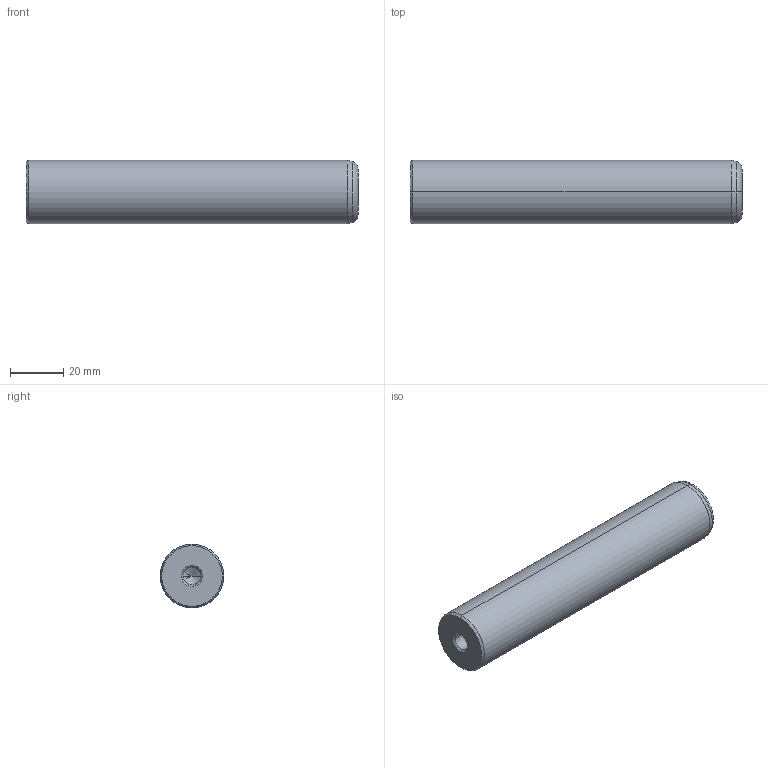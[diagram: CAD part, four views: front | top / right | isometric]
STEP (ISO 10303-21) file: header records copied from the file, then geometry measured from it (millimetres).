
FILE_DESCRIPTION(('CATIA V5 STEP Exchange'),'2;1');
FILE_NAME('C:\Users\Utente\Desktop\IO LAVORO\3D X SITO CF\X SITO\720\720-24x125.stp','2021-01-01T12:54:45+00:00',('none'),('none'),'CATIA Version 5 Release 20 GA (IN-10)','CATIA V5 STEP AP203','none');
FILE_SCHEMA(('CONFIG_CONTROL_DESIGN'));
Length unit declared in the file: millimetre
Products named in the file (1): 720-24x125
Bounding box: 125 x 24 x 24 mm (x, y, z)
Volume: 54582.8 mm3; surface area: 11164.8 mm2
Topology: 1 solids, 1 shells, 22 faces, 62 edges, 40 vertices
Faces by surface type: cone 12, cylinder 6, plane 2, torus 2
Entity records: 806 total; most frequent: CARTESIAN_POINT 229, ORIENTED_EDGE 116, DIRECTION 93, EDGE_CURVE 58, AXIS2_PLACEMENT_3D 54, VERTEX_POINT 40, CIRCLE 31, EDGE_LOOP 24
